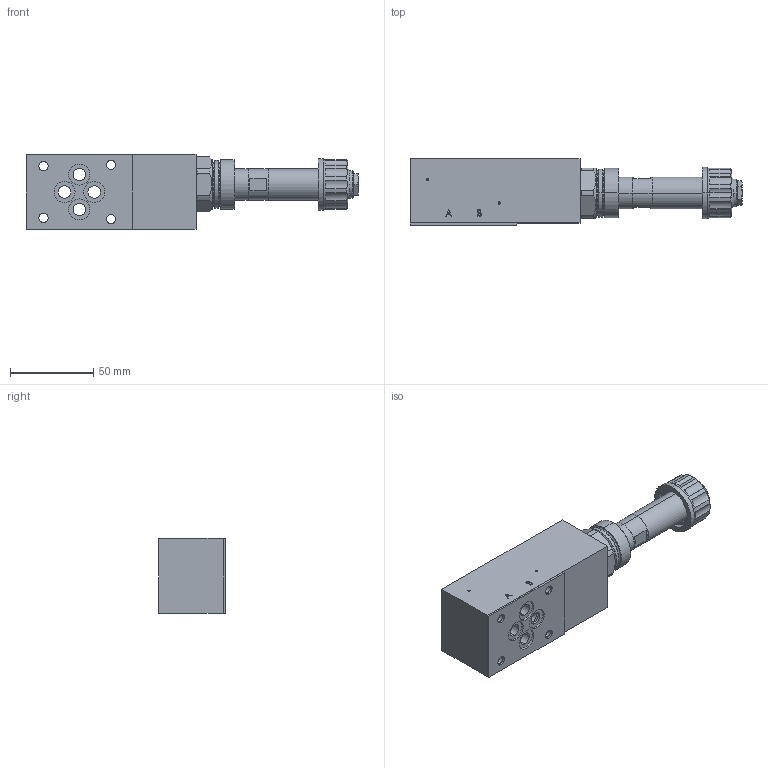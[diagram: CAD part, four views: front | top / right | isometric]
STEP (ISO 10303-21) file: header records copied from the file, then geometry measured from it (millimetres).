
FILE_DESCRIPTION (( 'STEP AP214' ), '1' );
FILE_NAME ('DNPSA06-B.STEP', '2017-04-19T12:07:53', ( '' ), ( '' ), 'SwSTEP 2.0', 'SolidWorks 2016', '' );
FILE_SCHEMA (( 'AUTOMOTIVE_DESIGN' ));
Length unit declared in the file: millimetre
Products named in the file (1): DNPSA06-B
Bounding box: 199.2 x 39.75 x 45 mm (x, y, z)
Volume: 211199.5 mm3; surface area: 42464 mm2
Topology: 2 solids, 4 shells, 436 faces, 1114 edges, 720 vertices
Faces by surface type: plane 214, cylinder 115, cone 66, bspline 25, torus 12, sphere 4
Entity records: 19743 total; most frequent: CARTESIAN_POINT 4332, ORIENTED_EDGE 2216, DIRECTION 2155, EDGE_CURVE 1108, AXIS2_PLACEMENT_3D 769, VERTEX_POINT 720, VECTOR 617, LINE 617
